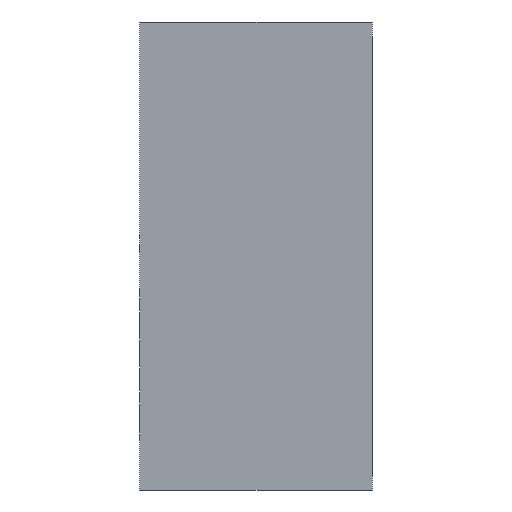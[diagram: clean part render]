
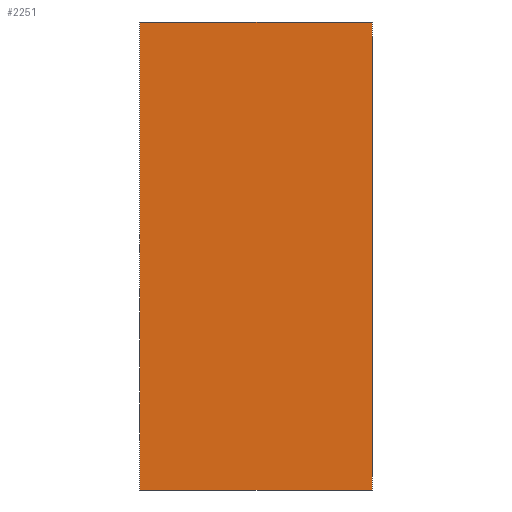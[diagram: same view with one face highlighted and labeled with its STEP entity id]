
A CAD part, front view. The second image highlights one B-rep face of the part: STEP entity #2251.
In plain terms, the highlighted planar face has unit normal (0, -1, 0).
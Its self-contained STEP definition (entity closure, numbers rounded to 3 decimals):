
#142 = DIRECTION ( 'NONE',  ( 0., 0., -1. ) ) ;
#181 = VECTOR ( 'NONE', #463, 1000. ) ;
#263 = DIRECTION ( 'NONE',  ( 0., 0., -1. ) ) ;
#463 = DIRECTION ( 'NONE',  ( 1., 0., 0. ) ) ;
#626 = DIRECTION ( 'NONE',  ( 0., -1., 0. ) ) ;
#633 = LINE ( 'NONE', #1966, #1907 ) ;
#720 = VECTOR ( 'NONE', #142, 1000. ) ;
#725 = VECTOR ( 'NONE', #3111, 1000. ) ;
#885 = VERTEX_POINT ( 'NONE', #1593 ) ;
#948 = DIRECTION ( 'NONE',  ( 1., 0., 0. ) ) ;
#1089 = VERTEX_POINT ( 'NONE', #3680 ) ;
#1148 = CARTESIAN_POINT ( 'NONE',  ( 0., -18., 26. ) ) ;
#1264 = EDGE_LOOP ( 'NONE', ( #3618, #2770, #4196, #1834 ) ) ;
#1296 = EDGE_CURVE ( 'NONE', #4236, #885, #633, .T. ) ;
#1430 = LINE ( 'NONE', #3470, #720 ) ;
#1593 = CARTESIAN_POINT ( 'NONE',  ( 13., -18., -0.2 ) ) ;
#1675 = FACE_OUTER_BOUND ( 'NONE', #1264, .T. ) ;
#1834 = ORIENTED_EDGE ( 'NONE', *, *, #1296, .T. ) ;
#1907 = VECTOR ( 'NONE', #948, 1000. ) ;
#1966 = CARTESIAN_POINT ( 'NONE',  ( 0., -18., -0.2 ) ) ;
#2039 = EDGE_CURVE ( 'NONE', #1089, #885, #1430, .T. ) ;
#2125 = LINE ( 'NONE', #1148, #725 ) ;
#2251 = ADVANCED_FACE ( 'NONE', ( #1675 ), #3954, .T. ) ;
#2770 = ORIENTED_EDGE ( 'NONE', *, *, #3431, .F. ) ;
#3073 = CARTESIAN_POINT ( 'NONE',  ( 0., -18., 26. ) ) ;
#3111 = DIRECTION ( 'NONE',  ( 0., 0., -1. ) ) ;
#3267 = CARTESIAN_POINT ( 'NONE',  ( 0., -18., 26. ) ) ;
#3284 = EDGE_CURVE ( 'NONE', #3490, #4236, #2125, .T. ) ;
#3431 = EDGE_CURVE ( 'NONE', #3490, #1089, #3803, .T. ) ;
#3462 = AXIS2_PLACEMENT_3D ( 'NONE', #3267, #626, #263 ) ;
#3470 = CARTESIAN_POINT ( 'NONE',  ( 13., -18., 26. ) ) ;
#3490 = VERTEX_POINT ( 'NONE', #4260 ) ;
#3618 = ORIENTED_EDGE ( 'NONE', *, *, #2039, .F. ) ;
#3680 = CARTESIAN_POINT ( 'NONE',  ( 13., -18., 26. ) ) ;
#3710 = CARTESIAN_POINT ( 'NONE',  ( 0., -18., -0.2 ) ) ;
#3803 = LINE ( 'NONE', #3073, #181 ) ;
#3954 = PLANE ( 'NONE',  #3462 ) ;
#4196 = ORIENTED_EDGE ( 'NONE', *, *, #3284, .T. ) ;
#4236 = VERTEX_POINT ( 'NONE', #3710 ) ;
#4260 = CARTESIAN_POINT ( 'NONE',  ( 0., -18., 26. ) ) ;
